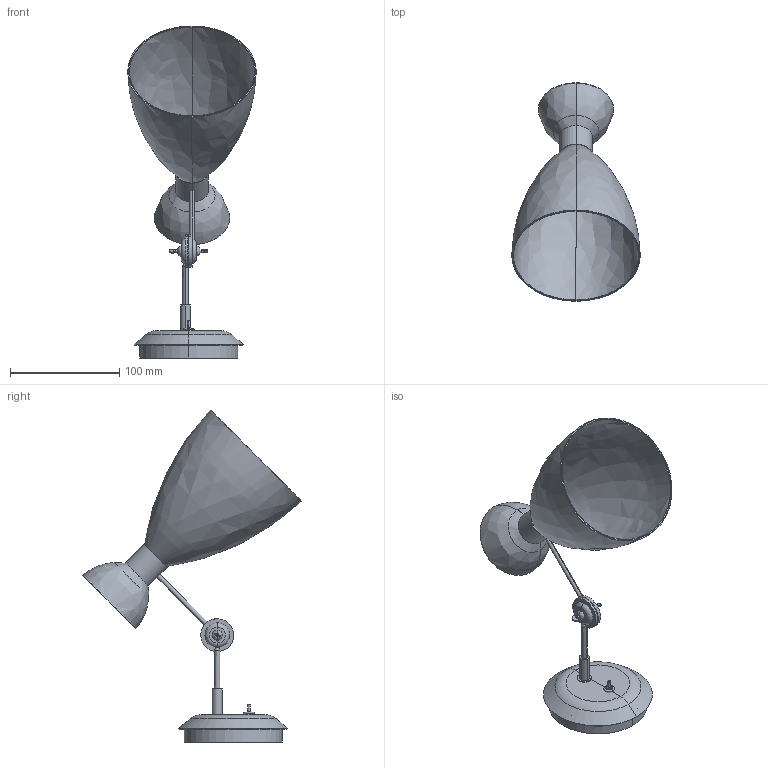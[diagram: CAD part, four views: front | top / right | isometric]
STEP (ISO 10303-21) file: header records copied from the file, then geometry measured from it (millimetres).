
FILE_DESCRIPTION(/* description */ (''),/* implementation_level */ '2;1');
FILE_NAME(/* name */ 'C:\Users\FrancoSartori\Documents\FARO\03_Completados\RETRO\03_Publicación\20049.stp',/* time_stamp */ '2021-08-04T10:29:46+02:00',/* author */ ('FrancoSartori'),/* organization */ (''),/* preprocessor_version */ 'ST-DEVELOPER v18.1',/* originating_system */ 'AutoCAD Mechanical',/* authorisation */ '');
FILE_SCHEMA (('AUTOMOTIVE_DESIGN { 1 0 10303 214 3 1 1 }'));
Length unit declared in the file: millimetre
Products named in the file (2): Product; 20045_ 20049 _L - LAMP-551237-_3D_
Assembly tree (1 placements, depth 2):
  Product
    20045_ 20049 _L - LAMP-551237-_3D_
Bounding box: 118 x 200.46 x 304.38 mm (x, y, z)
Volume: 191054.2 mm3; surface area: 241067.9 mm2
Topology: 14 solids, 17 shells, 190 faces, 377 edges, 211 vertices
Faces by surface type: plane 87, cylinder 55, bspline 25, torus 14, cone 8, sphere 1
Entity records: 6388 total; most frequent: CARTESIAN_POINT 2517, DIRECTION 821, ORIENTED_EDGE 742, EDGE_CURVE 376, AXIS2_PLACEMENT_3D 333, VERTEX_POINT 211, EDGE_LOOP 194, FACE_OUTER_BOUND 190
